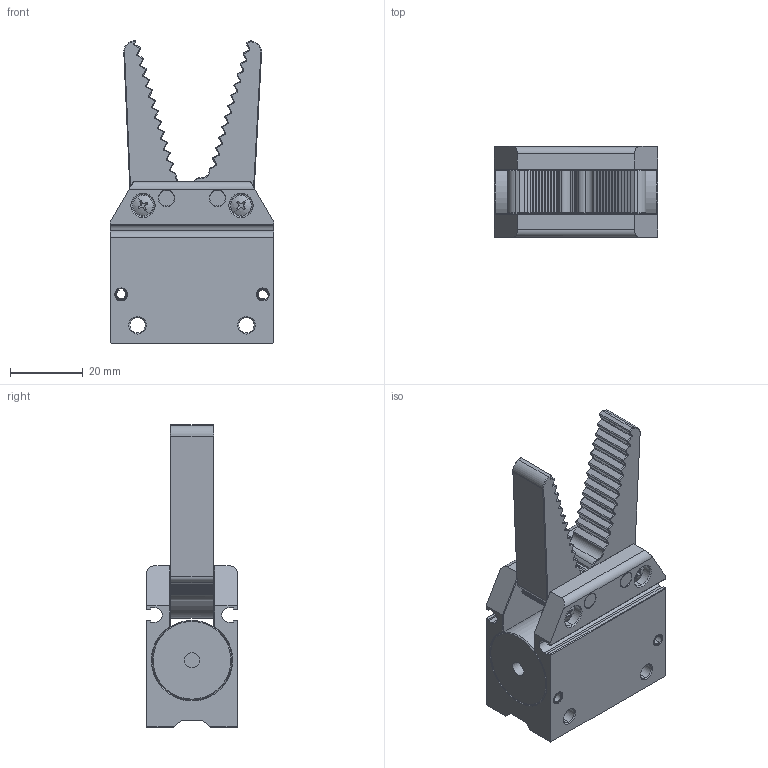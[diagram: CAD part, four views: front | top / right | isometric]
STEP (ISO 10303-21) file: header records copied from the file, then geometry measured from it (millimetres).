
FILE_DESCRIPTION(/* description */ (''),/* implementation_level */ '2;1');
FILE_NAME(/* name */ 'GRA20A',/* time_stamp */ '2022-10-08T15:11:39+08:00',/* author */ (''),/* organization */ (''),/* preprocessor_version */ 'ST-DEVELOPER v9',/* originating_system */ 'UGS - NX 4.0',/* authorisation */ '');
FILE_SCHEMA (('AUTOMOTIVE_DESIGN { 1 0 10303 214 1 1 1 1 }'));
Length unit declared in the file: millimetre
Products named in the file (1): Admi75D3ete1
Bounding box: 45 x 25 x 83.43 mm (x, y, z)
Volume: 48555.7 mm3; surface area: 18146.3 mm2
Topology: 3 solids, 3 shells, 1221 faces, 2710 edges, 1507 vertices
Faces by surface type: cone 584, cylinder 341, plane 292, sphere 4
Full cylindrical faces by diameter (mm): 3.5 x4, 4.2 x2, 4.331 x6
Entity records: 38999 total; most frequent: DIRECTION 6259, CARTESIAN_POINT 6070, ORIENTED_EDGE 5376, EDGE_CURVE 2688, AXIS2_PLACEMENT_3D 2384, VERTEX_POINT 1503, LINE 1491, VECTOR 1491
